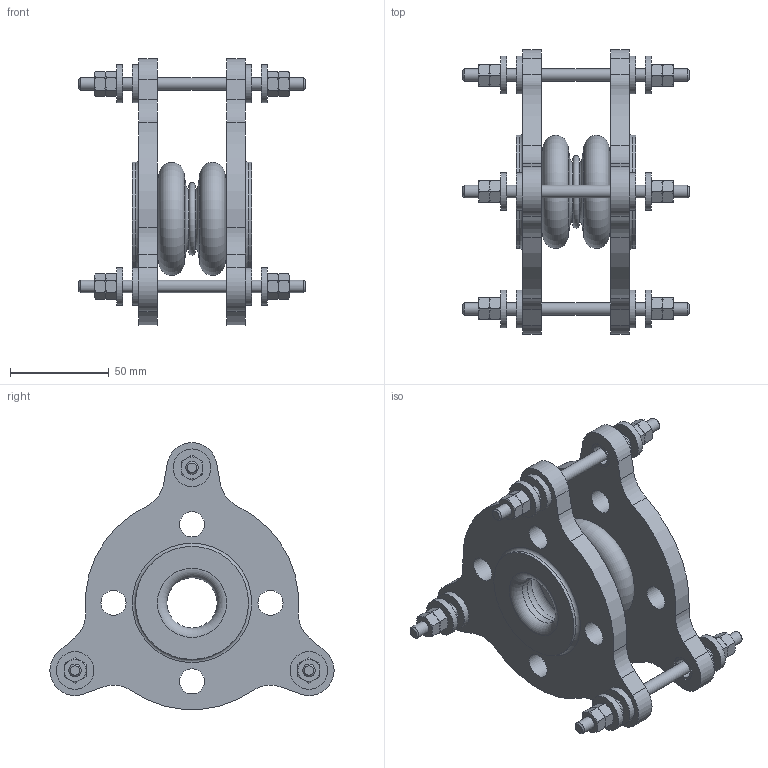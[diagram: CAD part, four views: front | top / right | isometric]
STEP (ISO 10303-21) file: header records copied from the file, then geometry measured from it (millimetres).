
FILE_DESCRIPTION(/* description */ (''),/* implementation_level */ '2;1');
FILE_NAME(/* name */ 'C:\Users\rramoutar\Desktop\802\802 1IDx2.375FF.stp',/* time_stamp */ '2016-04-24T12:09:29-04:00',/* author */ ('rramoutar'),/* organization */ ('Mason Industries Inc.'),/* preprocessor_version */ 'ST-DEVELOPER v15.6',/* originating_system */ 'Autodesk Inventor 2015',/* authorisation */ '');
FILE_SCHEMA (('CONFIG_CONTROL_DESIGN'));
Length unit declared in the file: inch
Products named in the file (1): 802 1IDx2.375FF
Bounding box: 114.3 x 143.63 x 134.74 mm (x, y, z)
Volume: 240094.2 mm3; surface area: 100214.7 mm2
Topology: 5 solids, 11 shells, 434 faces, 916 edges, 538 vertices
Faces by surface type: cone 182, plane 140, cylinder 91, torus 21
Full cylindrical faces by diameter (mm): 6.35 x15, 7.938 x6, 9.922 x6, 12.303 x6, 12.7 x14, 19.05 x12, 25.4 x2, 28.575 x2, 30.162 x2, 57.15 x2
Entity records: 10692 total; most frequent: CARTESIAN_POINT 2282, DIRECTION 1686, ORIENTED_EDGE 1524, AXIS2_PLACEMENT_3D 777, EDGE_CURVE 762, EDGE_LOOP 637, VERTEX_POINT 509, FACE_OUTER_BOUND 434
